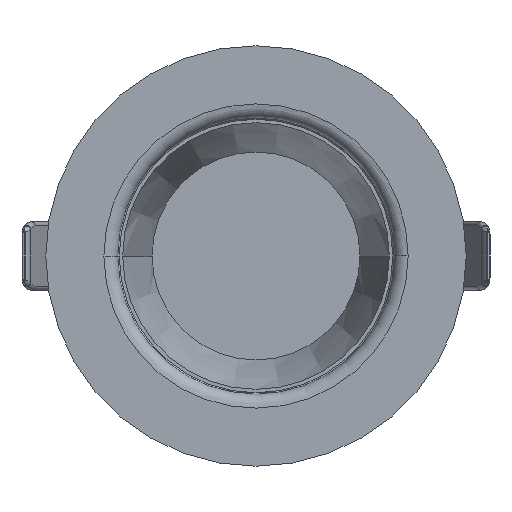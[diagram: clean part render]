
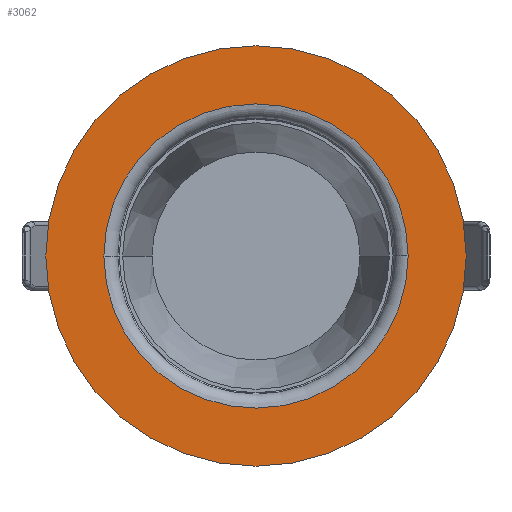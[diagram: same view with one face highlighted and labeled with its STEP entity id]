
A CAD part, front view. The second image highlights one B-rep face of the part: STEP entity #3062.
In plain terms, the highlighted planar face has unit normal (0, -1, 0).
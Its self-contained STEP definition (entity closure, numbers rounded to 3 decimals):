
#434=CARTESIAN_POINT('',(0.,-93.41,0.));
#435=DIRECTION('',(0.,1.,0.));
#436=DIRECTION('',(-1.,0.,-0.01));
#437=AXIS2_PLACEMENT_3D('',#434,#435,#436);
#450=CARTESIAN_POINT('',(0.,-93.41,0.));
#451=DIRECTION('',(0.,-1.,0.));
#452=DIRECTION('',(-1.,0.,-0.01));
#453=AXIS2_PLACEMENT_3D('',#450,#451,#452);
#458=CARTESIAN_POINT('',(0.,-93.41,0.));
#459=DIRECTION('',(0.,-1.,0.));
#460=DIRECTION('',(1.,0.,0.01));
#461=AXIS2_PLACEMENT_3D('',#458,#459,#460);
#466=CARTESIAN_POINT('',(0.,-93.41,0.));
#467=DIRECTION('',(0.,1.,0.));
#468=DIRECTION('',(1.,0.,0.));
#469=AXIS2_PLACEMENT_3D('',#466,#467,#468);
#474=CARTESIAN_POINT('',(0.,-93.41,0.));
#475=DIRECTION('',(0.,1.,0.));
#476=DIRECTION('',(-1.,0.,0.));
#477=AXIS2_PLACEMENT_3D('',#474,#475,#476);
#482=CARTESIAN_POINT('',(0.,-93.41,0.));
#483=DIRECTION('',(0.,1.,0.));
#484=DIRECTION('',(1.,0.,0.01));
#485=AXIS2_PLACEMENT_3D('',#482,#483,#484);
#2642=CARTESIAN_POINT('',(30.749,-93.41,0.293));
#2643=CARTESIAN_POINT('',(-30.75,-93.41,0.));
#2644=VERTEX_POINT('',#2642);
#2645=VERTEX_POINT('',#2643);
#2646=CARTESIAN_POINT('',(30.75,-93.41,0.));
#2647=VERTEX_POINT('',#2646);
#2652=CARTESIAN_POINT('',(-30.749,-93.41,-0.293));
#2653=VERTEX_POINT('',#2652);
#2908=CARTESIAN_POINT('',(42.5,-93.41,0.));
#2909=CARTESIAN_POINT('',(-42.5,-93.41,0.));
#2910=VERTEX_POINT('',#2908);
#2911=VERTEX_POINT('',#2909);
#3043=CARTESIAN_POINT('',(0.,-93.41,0.));
#3044=DIRECTION('',(0.,-1.,0.));
#3045=DIRECTION('',(-1.,0.,0.));
#3046=AXIS2_PLACEMENT_3D('',#3043,#3044,#3045);
#3047=PLANE('',#3046);
#3049=ORIENTED_EDGE('',*,*,#3048,.T.);
#3051=ORIENTED_EDGE('',*,*,#3050,.T.);
#3052=EDGE_LOOP('',(#3049,#3051));
#3053=FACE_OUTER_BOUND('',#3052,.F.);
#3054=ORIENTED_EDGE('',*,*,#3033,.F.);
#3055=ORIENTED_EDGE('',*,*,#3031,.T.);
#3057=ORIENTED_EDGE('',*,*,#3056,.F.);
#3059=ORIENTED_EDGE('',*,*,#3058,.T.);
#3060=EDGE_LOOP('',(#3054,#3055,#3057,#3059));
#3061=FACE_BOUND('',#3060,.F.);
#3062=ADVANCED_FACE('',(#3053,#3061),#3047,.T.);
#438=CIRCLE('',#437,30.75);
#454=CIRCLE('',#453,30.75);
#462=CIRCLE('',#461,30.75);
#470=CIRCLE('',#469,42.5);
#478=CIRCLE('',#477,42.5);
#486=CIRCLE('',#485,30.75);
#3031=EDGE_CURVE('',#2653,#2647,#454,.T.);
#3033=EDGE_CURVE('',#2653,#2645,#438,.T.);
#3048=EDGE_CURVE('',#2910,#2911,#470,.T.);
#3050=EDGE_CURVE('',#2911,#2910,#478,.T.);
#3056=EDGE_CURVE('',#2644,#2647,#486,.T.);
#3058=EDGE_CURVE('',#2644,#2645,#462,.T.);
